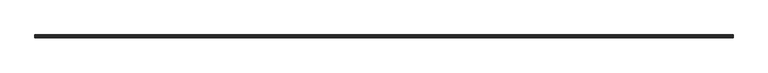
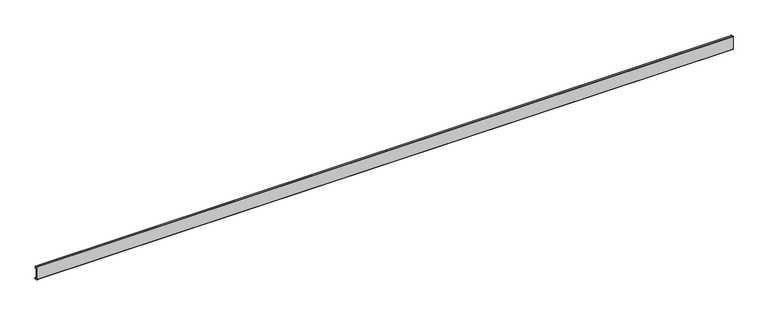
"""IFC4 building model written with IfcOpenShell, lengths in millimetres: proxy geometry, Weiku - Montante - Capa de folha 02.3.02.406 : Weiku - Montante - Capa de folha 02.3.02.406."""

from ifc_helpers import new_model, si_unit, point, frame, frame_2d, origin, place, context, project, spatial, polyline, circle_curve, trimmed, segment, composite_curve, outline, extrude, source, transform, mapped, element, save


def generic_models_d9e959ed(model_context):
    return source(origin(), model_context, "Body", "SweptSolid", [
        extrude(outline(composite_curve([segment(polyline([(4.6421508, 2.2715508), (5.3603515, 1.056104)]), True, "CONTINUOUS"), segment(trimmed(circle_curve(frame_2d((4.7576991, 0.7)), 0.7), [point((5.3603515, 1.056104))], [point((4.7576991, 0.0))], False, "CARTESIAN"), True, "CONTINUOUS"), segment(polyline([(4.7576991, 0.0), (0.5, 0.0)]), True, "CONTINUOUS"), segment(trimmed(circle_curve(frame_2d((0.5, 0.5)), 0.5), [point((0.5, 0.0))], [point((0.0, 0.5))], False, "CARTESIAN"), True, "CONTINUOUS"), segment(polyline([(0.0, 0.5), (0.0, 26.2)]), True, "CONTINUOUS"), segment(trimmed(circle_curve(frame_2d((0.5, 26.2)), 0.5), [point((0.0, 26.2))], [point((0.5, 26.7))], False, "CARTESIAN"), True, "CONTINUOUS"), segment(polyline([(0.5, 26.7), (3.78, 26.7)]), True, "CONTINUOUS"), segment(trimmed(circle_curve(frame_2d((3.78, 26.2)), 0.5), [point((3.78, 26.7))], [point((4.28, 26.2))], False, "CARTESIAN"), True, "CONTINUOUS"), segment(polyline([(4.28, 26.2), (4.28, 22.3396), (3.3063, 22.3396), (3.3063, 25.684), (1.6933, 25.684), (1.6933, 1.016), (3.3866, 1.016), (4.6421508, 2.2715508)]), True, "CONTINUOUS")], self_intersect=False)), frame((-682.8166667, 0.0, 0.0), z_axis=(1.0, 0.0, 0.0), x_axis=(0.0, 1.0, 0.0)), (0.0, 0.0, 1.0), 1365.6333333),
    ])


if __name__ == "__main__":
    model = new_model("IFC4")
    model_context = context("Model", 3, world=origin())
    ifc_project = project(units=[si_unit("LENGTHUNIT", "METRE", prefix="MILLI")], contexts=[model_context])
    site = spatial("IfcSite", under=ifc_project)
    building = spatial("IfcBuilding", under=site)
    placement = place(None, origin())
    generic_models_shape = generic_models_d9e959ed(model_context)
    element("IfcBuildingElementProxy", 1, Name="Weiku - Montante - Capa de folha 02.3.02.406 : Weiku - Montante - Capa de folha 02.3.02.406", ObjectType="Weiku - Montante - Capa de folha 02.3.02.406 : Weiku - Montante - Capa de folha 02.3.02.406", at=placement, inside=building, context=model_context, shape_type="MappedRepresentation", body=[
        mapped(generic_models_shape, transform((0.0, 0.0, 0.0), x_axis=(1.0, 0.0, 0.0), y_axis=(0.0, 1.0, 0.0), z_axis=(0.0, 0.0, 1.0))),
    ])
    save(model, "model.ifc")
